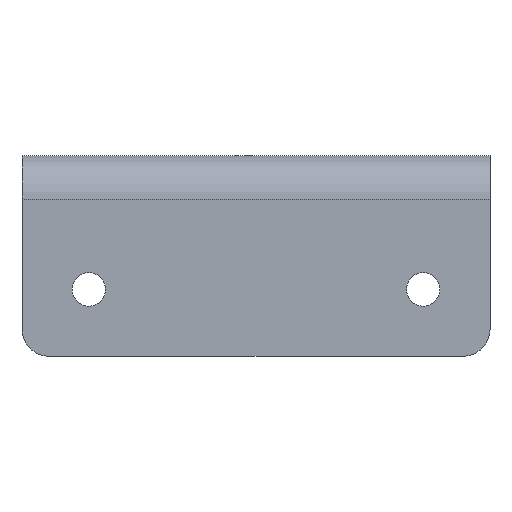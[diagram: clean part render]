
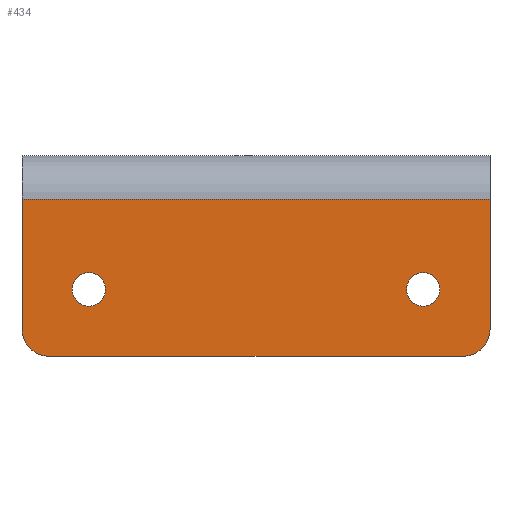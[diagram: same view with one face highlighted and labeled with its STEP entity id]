
A CAD part, front view. The second image highlights one B-rep face of the part: STEP entity #434.
In plain terms, the highlighted planar face has unit normal (0, -1, 0).
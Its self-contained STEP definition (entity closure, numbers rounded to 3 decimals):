
#15=FACE_BOUND('',#75,.T.);
#16=FACE_BOUND('',#76,.T.);
#25=PLANE('',#470);
#46=FACE_OUTER_BOUND('',#74,.T.);
#74=EDGE_LOOP('',(#327,#328,#329,#330,#331,#332));
#75=EDGE_LOOP('',(#333));
#76=EDGE_LOOP('',(#334));
#114=LINE('',#686,#154);
#117=LINE('',#692,#157);
#118=LINE('',#694,#158);
#119=LINE('',#696,#159);
#154=VECTOR('',#546,31.);
#157=VECTOR('',#551,9.749);
#158=VECTOR('',#552,35.);
#159=VECTOR('',#553,9.749);
#186=CIRCLE('',#468,2.);
#187=CIRCLE('',#471,2.);
#188=CIRCLE('',#472,1.25);
#189=CIRCLE('',#473,1.25);
#214=VERTEX_POINT('',#679);
#215=VERTEX_POINT('',#681);
#216=VERTEX_POINT('',#685);
#218=VERTEX_POINT('',#691);
#219=VERTEX_POINT('',#693);
#220=VERTEX_POINT('',#695);
#221=VERTEX_POINT('',#698);
#222=VERTEX_POINT('',#700);
#254=EDGE_CURVE('',#214,#215,#186,.T.);
#256=EDGE_CURVE('',#215,#216,#114,.T.);
#259=EDGE_CURVE('',#218,#214,#117,.T.);
#260=EDGE_CURVE('',#218,#219,#118,.T.);
#261=EDGE_CURVE('',#220,#219,#119,.T.);
#262=EDGE_CURVE('',#216,#220,#187,.T.);
#263=EDGE_CURVE('',#221,#221,#188,.T.);
#264=EDGE_CURVE('',#222,#222,#189,.T.);
#327=ORIENTED_EDGE('',*,*,#254,.F.);
#328=ORIENTED_EDGE('',*,*,#259,.F.);
#329=ORIENTED_EDGE('',*,*,#260,.T.);
#330=ORIENTED_EDGE('',*,*,#261,.F.);
#331=ORIENTED_EDGE('',*,*,#262,.F.);
#332=ORIENTED_EDGE('',*,*,#256,.F.);
#333=ORIENTED_EDGE('',*,*,#263,.T.);
#334=ORIENTED_EDGE('',*,*,#264,.T.);
#434=ADVANCED_FACE('',(#46,#15,#16),#25,.F.);
#468=AXIS2_PLACEMENT_3D('',#682,#541,#542);
#470=AXIS2_PLACEMENT_3D('',#690,#549,#550);
#471=AXIS2_PLACEMENT_3D('',#697,#554,#555);
#472=AXIS2_PLACEMENT_3D('',#699,#556,#557);
#473=AXIS2_PLACEMENT_3D('',#701,#558,#559);
#541=DIRECTION('center_axis',(0.,1.,0.));
#542=DIRECTION('ref_axis',(0.707,0.,-0.707));
#546=DIRECTION('',(-1.,0.,0.));
#549=DIRECTION('center_axis',(0.,1.,0.));
#550=DIRECTION('ref_axis',(0.,0.,1.));
#551=DIRECTION('',(0.,0.,-1.));
#552=DIRECTION('',(-1.,0.,0.));
#553=DIRECTION('',(0.,0.,1.));
#554=DIRECTION('center_axis',(0.,1.,0.));
#555=DIRECTION('ref_axis',(-0.707,0.,-0.707));
#556=DIRECTION('center_axis',(0.,1.,0.));
#557=DIRECTION('ref_axis',(1.,0.,0.));
#558=DIRECTION('center_axis',(0.,1.,0.));
#559=DIRECTION('ref_axis',(1.,0.,0.));
#679=CARTESIAN_POINT('',(17.5,0.,-5.5));
#681=CARTESIAN_POINT('',(15.5,0.,-7.5));
#682=CARTESIAN_POINT('Origin',(15.5,0.,-5.5));
#685=CARTESIAN_POINT('',(-15.5,0.,-7.5));
#686=CARTESIAN_POINT('',(17.5,0.,-7.5));
#690=CARTESIAN_POINT('Origin',(-2.98,0.,-2.98));
#691=CARTESIAN_POINT('',(17.5,0.,4.249));
#692=CARTESIAN_POINT('',(17.5,0.,7.5));
#693=CARTESIAN_POINT('',(-17.5,0.,4.249));
#694=CARTESIAN_POINT('',(7.26,0.,4.249));
#695=CARTESIAN_POINT('',(-17.5,0.,-5.5));
#696=CARTESIAN_POINT('',(-17.5,0.,-7.5));
#697=CARTESIAN_POINT('Origin',(-15.5,0.,-5.5));
#698=CARTESIAN_POINT('',(-11.25,0.,-2.5));
#699=CARTESIAN_POINT('Origin',(-12.5,0.,-2.5));
#700=CARTESIAN_POINT('',(13.75,0.,-2.5));
#701=CARTESIAN_POINT('Origin',(12.5,0.,-2.5));
